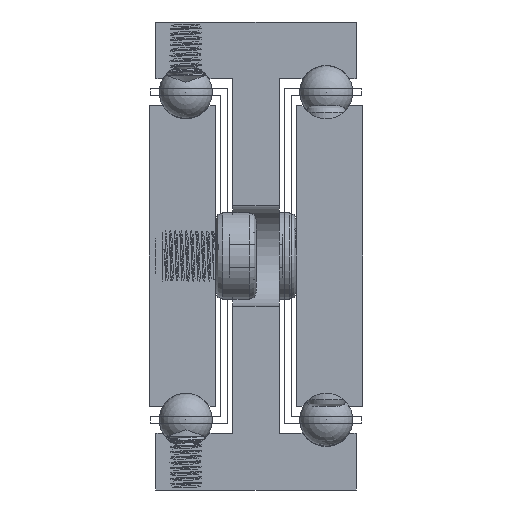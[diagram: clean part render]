
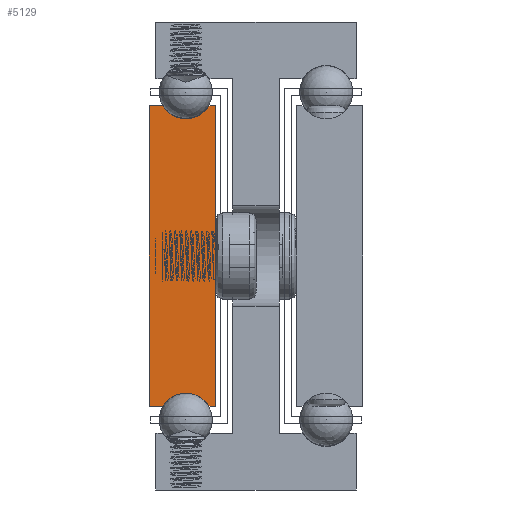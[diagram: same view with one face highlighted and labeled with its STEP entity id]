
A CAD part, front view. The second image highlights one B-rep face of the part: STEP entity #5129.
In plain terms, the highlighted planar face has unit normal (0, -1, 0).
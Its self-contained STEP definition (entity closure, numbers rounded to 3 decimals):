
#667=CIRCLE('',#5532,4.);
#669=CIRCLE('',#5538,4.);
#1061=FACE_OUTER_BOUND('',#1381,.T.);
#1381=EDGE_LOOP('',(#4004,#4005,#4006,#4007,#4008,#4009,#4010,#4011));
#1902=LINE('',#7822,#2198);
#1905=LINE('',#7828,#2201);
#1909=LINE('',#7840,#2205);
#1912=LINE('',#7846,#2208);
#1915=LINE('',#7852,#2211);
#1919=LINE('',#7862,#2215);
#2198=VECTOR('',#6296,1.);
#2201=VECTOR('',#6301,1.);
#2205=VECTOR('',#6313,1.);
#2208=VECTOR('',#6318,1.);
#2211=VECTOR('',#6323,1.);
#2215=VECTOR('',#6335,1.);
#2502=VERTEX_POINT('',#7819);
#2503=VERTEX_POINT('',#7821);
#2505=VERTEX_POINT('',#7827);
#2507=VERTEX_POINT('',#7833);
#2509=VERTEX_POINT('',#7839);
#2511=VERTEX_POINT('',#7845);
#2513=VERTEX_POINT('',#7851);
#2515=VERTEX_POINT('',#7857);
#3164=EDGE_CURVE('',#2503,#2502,#1902,.T.);
#3167=EDGE_CURVE('',#2505,#2503,#1905,.T.);
#3170=EDGE_CURVE('',#2507,#2505,#667,.T.);
#3173=EDGE_CURVE('',#2509,#2507,#1909,.T.);
#3176=EDGE_CURVE('',#2511,#2509,#1912,.T.);
#3179=EDGE_CURVE('',#2513,#2511,#1915,.T.);
#3182=EDGE_CURVE('',#2515,#2513,#669,.T.);
#3185=EDGE_CURVE('',#2502,#2515,#1919,.T.);
#4004=ORIENTED_EDGE('',*,*,#3185,.T.);
#4005=ORIENTED_EDGE('',*,*,#3182,.T.);
#4006=ORIENTED_EDGE('',*,*,#3179,.T.);
#4007=ORIENTED_EDGE('',*,*,#3176,.T.);
#4008=ORIENTED_EDGE('',*,*,#3173,.T.);
#4009=ORIENTED_EDGE('',*,*,#3170,.T.);
#4010=ORIENTED_EDGE('',*,*,#3167,.T.);
#4011=ORIENTED_EDGE('',*,*,#3164,.T.);
#4983=PLANE('',#5541);
#5129=ADVANCED_FACE('',(#1061),#4983,.T.);
#5532=AXIS2_PLACEMENT_3D('',#7834,#6307,#6308);
#5538=AXIS2_PLACEMENT_3D('',#7858,#6329,#6330);
#5541=AXIS2_PLACEMENT_3D('',#7864,#6338,#6339);
#6296=DIRECTION('',(0.,0.,-1.));
#6301=DIRECTION('',(-1.,0.,0.));
#6307=DIRECTION('center_axis',(0.,1.,0.));
#6308=DIRECTION('ref_axis',(-0.866,0.,-0.5));
#6313=DIRECTION('',(-1.,0.,0.));
#6318=DIRECTION('',(0.,0.,1.));
#6323=DIRECTION('',(1.,0.,0.));
#6329=DIRECTION('center_axis',(0.,1.,0.));
#6330=DIRECTION('ref_axis',(0.866,0.,0.5));
#6335=DIRECTION('',(1.,0.,0.));
#6338=DIRECTION('center_axis',(0.,-1.,0.));
#6339=DIRECTION('ref_axis',(1.,0.,0.));
#7819=CARTESIAN_POINT('',(-4200.571,-549.563,627.5));
#7821=CARTESIAN_POINT('',(-4200.571,-549.563,672.5));
#7822=CARTESIAN_POINT('',(-4200.571,-549.563,627.5));
#7827=CARTESIAN_POINT('',(-4198.535,-549.563,672.5));
#7828=CARTESIAN_POINT('',(-4200.571,-549.563,672.5));
#7833=CARTESIAN_POINT('',(-4191.606,-549.563,672.5));
#7834=CARTESIAN_POINT('Origin',(-4195.071,-549.563,674.5));
#7839=CARTESIAN_POINT('',(-4190.571,-549.563,672.5));
#7840=CARTESIAN_POINT('',(-4191.606,-549.563,672.5));
#7845=CARTESIAN_POINT('',(-4190.571,-549.563,627.5));
#7846=CARTESIAN_POINT('',(-4190.571,-549.563,672.5));
#7851=CARTESIAN_POINT('',(-4191.606,-549.563,627.5));
#7852=CARTESIAN_POINT('',(-4190.571,-549.563,627.5));
#7857=CARTESIAN_POINT('',(-4198.535,-549.563,627.5));
#7858=CARTESIAN_POINT('Origin',(-4195.071,-549.563,625.5));
#7862=CARTESIAN_POINT('',(-4198.535,-549.563,627.5));
#7864=CARTESIAN_POINT('Origin',(-4195.576,-549.563,650.));
